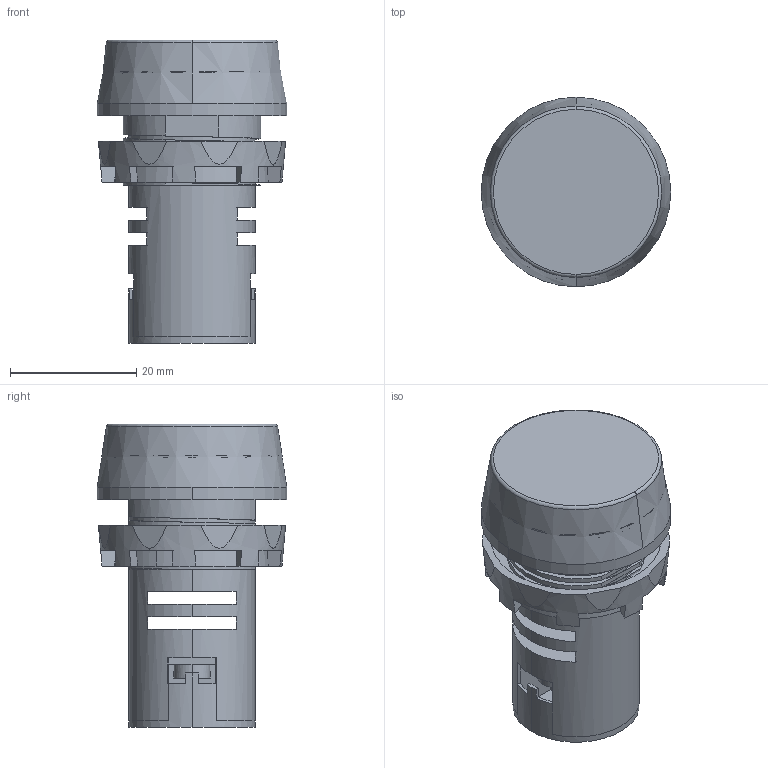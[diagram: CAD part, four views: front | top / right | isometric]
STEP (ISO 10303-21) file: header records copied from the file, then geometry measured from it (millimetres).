
FILE_DESCRIPTION (( 'STEP AP214' ), '1' );
FILE_NAME ('3D 斁麧錪 朊22-S13.STEP', '2020-09-20T07:49:11', ( '' ), ( '' ), 'SwSTEP 2.0', 'SolidWorks 2015', '' );
FILE_SCHEMA (( 'AUTOMOTIVE_DESIGN' ));
Length unit declared in the file: millimetre
Products named in the file (5): êðûøêà_00; 溴蜞朦 豚祜鸰00; 扻錪犩; 3D 斁麧錪 朊22-S13; 朊22-S13_膰豵鵨
Assembly tree (4 placements, depth 2):
  3D 斁麧錪 朊22-S13
    朊22-S13_膰豵鵨
    扻錪犩
    êðûøêà_00
    溴蜞朦 豚祜鸰00
Bounding box: 30 x 30 x 48.1 mm (x, y, z)
Volume: 15866.4 mm3; surface area: 14400.1 mm2
Topology: 4 solids, 8 shells, 309 faces, 828 edges, 543 vertices
Faces by surface type: plane 181, cylinder 64, bspline 37, cone 25, torus 2
Entity records: 17868 total; most frequent: CARTESIAN_POINT 7890, ORIENTED_EDGE 1656, DIRECTION 1353, EDGE_CURVE 828, VERTEX_POINT 543, AXIS2_PLACEMENT_3D 464, VECTOR 425, LINE 425
